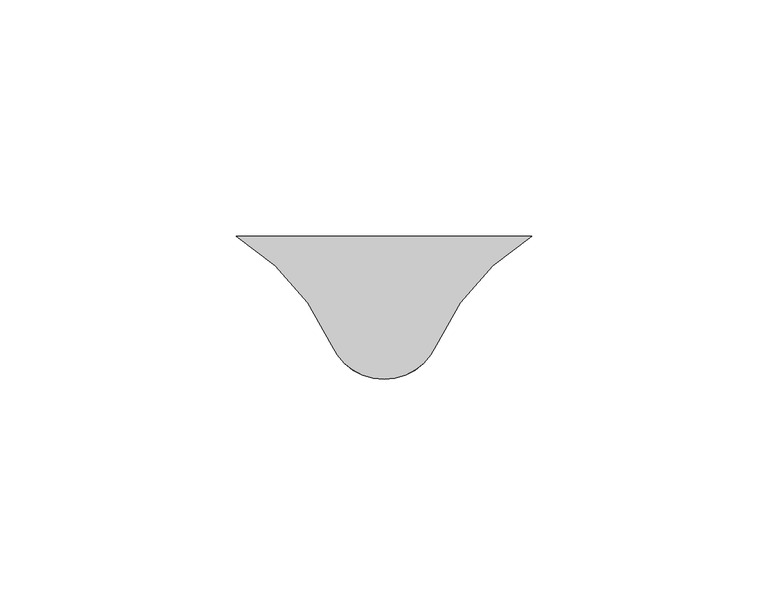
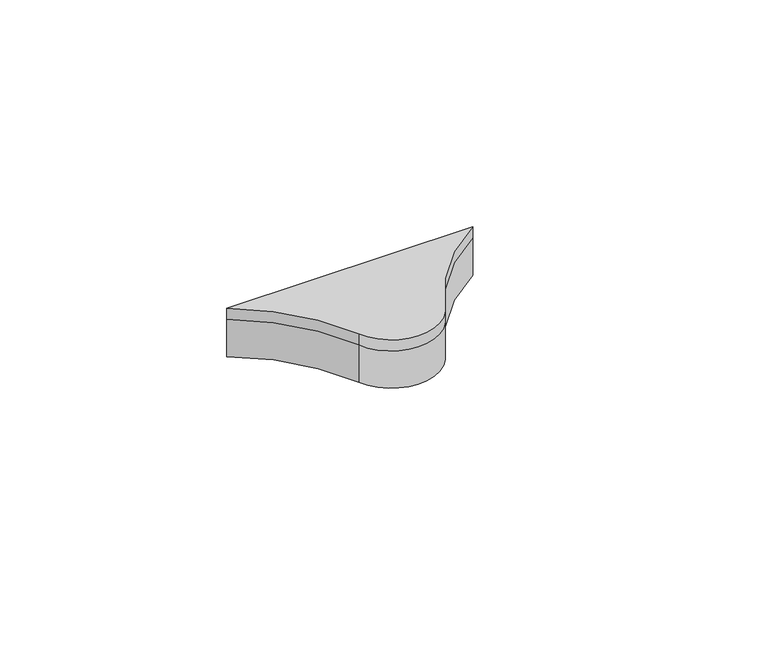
"""IFC4 building model written with IfcOpenShell, lengths in millimetres: proxy geometry, FilzFelt_Fish_Block : Fish Block."""

from ifc_helpers import new_model, si_unit, frame, origin, place, context, project, spatial, polyline, circle_curve, source, transform, mapped, element, save
from ifc_brep_helpers import plane_surface, cylinder_surface, revolved_surface, advanced_brep


def specialty_equipment_da839ed6(model_context):
    return source(origin(), model_context, "Body", "AdvancedBrep", [
        advanced_brep(
        [(-31.2603598, -106.3386324, 10.0210937), (31.2540608, -106.3386324, 10.0210937), (11.0103348, -129.4133496, 10.0210937), (-11.0103348, -129.4133496, 10.0210937), (31.2603598, -106.3386324, 12.9976563), (-31.2540608, -106.3386324, 12.9976563), (-11.0103348, -129.4133496, 12.9976563), (0.0, -136.5838795, 12.9976563), (11.0103348, -129.4133496, 12.9976563)],
        [
            (0, 1),
            (1, 2, circle_curve(frame((57.9263497, -150.1559416, 10.0210937), z_axis=(0.0, 0.0, 1.0), x_axis=(-1.0, 0.0, 0.0)), 51.2968574)),
            (2, 3, circle_curve(frame((0.0, -124.5454408, 10.0210937), z_axis=(0.0, 0.0, -1.0), x_axis=(-1.0, 0.0, 0.0)), 12.0384388)),
            (3, 0, circle_curve(frame((-57.9263497, -150.1559416, 10.0210937), z_axis=(0.0, 0.0, 1.0), x_axis=(-1.0, 0.0, 0.0)), 51.2968574)),
            (4, 5),
            (5, 6, circle_curve(frame((-57.9263497, -150.1559416, 12.9976563), z_axis=(0.0, 0.0, -1.0), x_axis=(-1.0, 0.0, 0.0)), 51.2968574)),
            (6, 7, circle_curve(frame((0.0, -124.5454408, 12.9976563), z_axis=(0.0, 0.0, 1.0), x_axis=(-1.0, 0.0, 0.0)), 12.0384388)),
            (7, 8, circle_curve(frame((0.0, -124.5454408, 12.9976563), z_axis=(0.0, 0.0, 1.0), x_axis=(-1.0, 0.0, 0.0)), 12.0384388)),
            (8, 4, circle_curve(frame((57.9263497, -150.1559416, 12.9976563), z_axis=(0.0, 0.0, -1.0), x_axis=(-1.0, 0.0, 0.0)), 51.2968574)),
            (3, 6),
            (5, 0),
            (2, 8),
            (1, 4),
        ],
        [
            plane_surface(frame((0.0, 0.0, 10.0210937), z_axis=(0.0, 0.0, -1.0), x_axis=(0.0, 1.0, 0.0))),
            plane_surface(frame((0.0, 0.0, 12.9976563), z_axis=(0.0, 0.0, 1.0), x_axis=(0.0, 1.0, 0.0))),
            revolved_surface(polyline([(-109.2232071, -150.1559416, 12.9976563), (-109.2232071, -150.1559416, 10.0210937)]), (-57.9263497, -150.1559416, 10.0210937), (0.0, 0.0, 1.0)),
            cylinder_surface(frame((0.0, -124.5454408, 10.0210937), z_axis=(0.0, 0.0, -1.0), x_axis=(-1.0, 0.0, 0.0)), 12.0384388),
            revolved_surface(polyline([(6.629492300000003, -150.1559416, 12.9976563), (6.629492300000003, -150.1559416, 10.0210937)]), (57.9263497, -150.1559416, 10.0210937), (0.0, 0.0, 1.0)),
            plane_surface(frame((112.4642226, -106.3386324, 12.9976562), z_axis=(0.0, 1.0, 0.0), x_axis=(0.0, 0.0, -1.0))),
        ],
        [
            (0, [[1, 2, 3, 4]]),
            (1, [[5, 6, 7, 8, 9]]),
            (2, [[10, -6, 11, -4]]),
            (3, [[12, -8, -7, -10, -3]]),
            (4, [[13, -9, -12, -2]]),
            (5, [[-11, -5, -13, -1]]),
        ],
    ),
        advanced_brep(
        [(-31.2603598, -106.3386324, 0.0), (31.2540608, -106.3386324, 0.0), (11.0103348, -129.4133496, 0.0), (0.0, -136.5838795, 0.0), (-11.0103348, -129.4133496, 0.0), (31.2603598, -106.3386324, 10.0210937), (-31.2540608, -106.3386324, 10.0210937), (-11.0103348, -129.4133496, 10.0210937), (11.0103348, -129.4133496, 10.0210937)],
        [
            (0, 1),
            (1, 2, circle_curve(frame((57.9263497, -150.1559416, 0.0), z_axis=(0.0, 0.0, 1.0), x_axis=(-1.0, 0.0, 0.0)), 51.2968574)),
            (2, 3, circle_curve(frame((0.0, -124.5454408, 0.0), z_axis=(0.0, 0.0, -1.0), x_axis=(-1.0, 0.0, 0.0)), 12.0384388)),
            (3, 4, circle_curve(frame((0.0, -124.5454408, 0.0), z_axis=(0.0, 0.0, -1.0), x_axis=(-1.0, 0.0, 0.0)), 12.0384388)),
            (4, 0, circle_curve(frame((-57.9263497, -150.1559416, 0.0), z_axis=(0.0, 0.0, 1.0), x_axis=(-1.0, 0.0, 0.0)), 51.2968574)),
            (5, 6),
            (6, 7, circle_curve(frame((-57.9263497, -150.1559416, 10.0210937), z_axis=(0.0, 0.0, -1.0), x_axis=(-1.0, 0.0, 0.0)), 51.2968574)),
            (7, 8, circle_curve(frame((0.0, -124.5454408, 10.0210937), z_axis=(0.0, 0.0, 1.0), x_axis=(-1.0, 0.0, 0.0)), 12.0384388)),
            (8, 5, circle_curve(frame((57.9263497, -150.1559416, 10.0210937), z_axis=(0.0, 0.0, -1.0), x_axis=(-1.0, 0.0, 0.0)), 51.2968574)),
            (4, 7),
            (6, 0),
            (2, 8),
            (1, 5),
        ],
        [
            plane_surface(frame((0.0, 0.0, 0.0), z_axis=(0.0, 0.0, -1.0), x_axis=(0.0, 1.0, 0.0))),
            plane_surface(frame((0.0, 0.0, 10.0210937), z_axis=(0.0, 0.0, 1.0), x_axis=(0.0, 1.0, 0.0))),
            revolved_surface(polyline([(-109.2232071, -150.1559416, 10.0210937), (-109.2232071, -150.1559416, 0.0)]), (-57.9263497, -150.1559416, 0.0), (0.0, 0.0, 1.0)),
            cylinder_surface(frame((0.0, -124.5454408, 0.0), z_axis=(0.0, 0.0, -1.0), x_axis=(-1.0, 0.0, 0.0)), 12.0384388),
            revolved_surface(polyline([(6.629492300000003, -150.1559416, 10.0210937), (6.629492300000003, -150.1559416, 0.0)]), (57.9263497, -150.1559416, 0.0), (0.0, 0.0, 1.0)),
            plane_surface(frame((112.4642226, -106.3386324, 12.9976562), z_axis=(0.0, 1.0, 0.0), x_axis=(0.0, 0.0, -1.0))),
        ],
        [
            (0, [[1, 2, 3, 4, 5]]),
            (1, [[6, 7, 8, 9]]),
            (2, [[10, -7, 11, -5]]),
            (3, [[-10, -4, -3, 12, -8]]),
            (4, [[13, -9, -12, -2]]),
            (5, [[-11, -6, -13, -1]]),
        ],
    ),
    ])


if __name__ == "__main__":
    model = new_model("IFC4")
    model_context = context("Model", 3, world=origin())
    ifc_project = project(units=[si_unit("LENGTHUNIT", "METRE", prefix="MILLI")], contexts=[model_context])
    site = spatial("IfcSite", under=ifc_project)
    building = spatial("IfcBuilding", under=site)
    placement = place(None, origin())
    specialty_equipment_shape = specialty_equipment_da839ed6(model_context)
    element("IfcBuildingElementProxy", 1, Name="FilzFelt_Fish_Block : Fish Block", ObjectType="FilzFelt_Fish_Block : Fish Block", at=placement, inside=building, context=model_context, shape_type="MappedRepresentation", body=[
        mapped(specialty_equipment_shape, transform((0.0, 0.0, 0.0), x_axis=(1.0, 0.0, 0.0), y_axis=(0.0, 1.0, 0.0), z_axis=(0.0, 0.0, 1.0))),
    ])
    save(model, "model.ifc")
